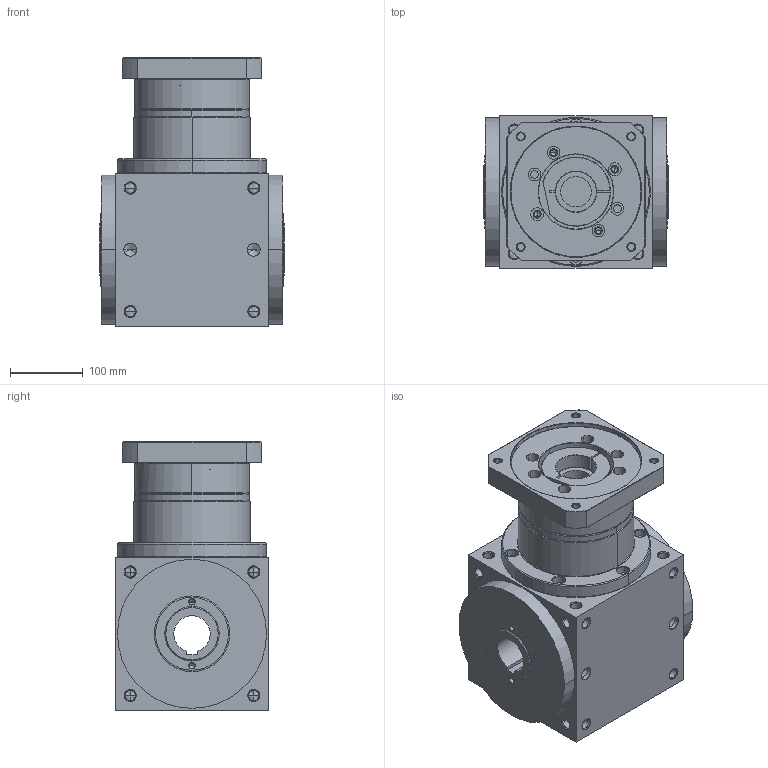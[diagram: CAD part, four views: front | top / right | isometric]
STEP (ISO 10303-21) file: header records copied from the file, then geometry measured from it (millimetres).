
FILE_DESCRIPTION((''),'2;1');
FILE_NAME('AT210FH1-P0403600601_ASM','2009-01-16T',('d00080'),(''),'PRO/ENGINEER BY PARAMETRIC TECHNOLOGY CORPORATION, 2006170','PRO/ENGINEER BY PARAMETRIC TECHNOLOGY CORPORATION, 2006170','');
FILE_SCHEMA(('CONFIG_CONTROL_DESIGN'));
Length unit declared in the file: millimetre
Products named in the file (6): AT210FH-A; P1801800001; P1502800001; P0501600001; P0403600601; AT210FH1-P0403600601_ASM
Assembly tree (5 placements, depth 2):
  AT210FH1-P0403600601_ASM
    AT210FH-A
    P1801800001
    P1502800001
    P0501600001
    P0403600601
Bounding box: 254 x 210 x 369 mm (x, y, z)
Volume: 12132661.8 mm3; surface area: 749397.8 mm2
Topology: 5 solids, 47 shells, 825 faces, 2067 edges, 1247 vertices
Faces by surface type: cylinder 359, cone 308, plane 126, torus 32
Entity records: 25412 total; most frequent: CARTESIAN_POINT 5489, DIRECTION 4484, ORIENTED_EDGE 3790, EDGE_CURVE 1979, AXIS2_PLACEMENT_3D 1882, VERTEX_POINT 1247, CIRCLE 1036, EDGE_LOOP 998
